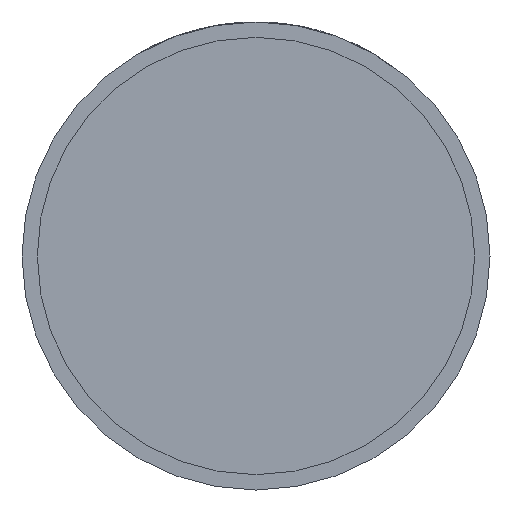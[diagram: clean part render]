
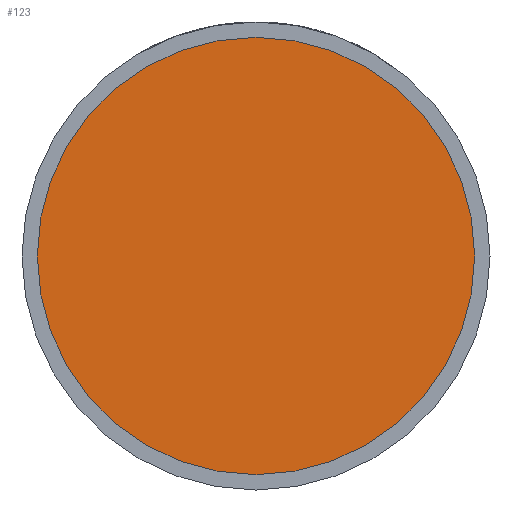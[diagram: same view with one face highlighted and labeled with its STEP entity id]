
A CAD part, front view. The second image highlights one B-rep face of the part: STEP entity #123.
In plain terms, the highlighted planar face has unit normal (0, -1, 0).
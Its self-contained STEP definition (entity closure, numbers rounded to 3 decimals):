
#119 = FACE_OUTER_BOUND ( 'NONE', #4085, .T. ) ;
#123 = ADVANCED_FACE ( 'NONE', ( #119 ), #1124, .T. ) ;
#641 = EDGE_CURVE ( 'NONE', #1106, #3462, #1079, .T. ) ;
#1000 = ORIENTED_EDGE ( 'NONE', *, *, #2819, .T. ) ;
#1079 = CIRCLE ( 'NONE', #3777, 28.5 ) ;
#1106 = VERTEX_POINT ( 'NONE', #2024 ) ;
#1119 = DIRECTION ( 'NONE',  ( 1., 0., 0. ) ) ;
#1124 = PLANE ( 'NONE',  #1915 ) ;
#1439 = CARTESIAN_POINT ( 'NONE',  ( 28.5, -17.5, 0. ) ) ;
#1481 = DIRECTION ( 'NONE',  ( 0., -1., 0. ) ) ;
#1558 = CARTESIAN_POINT ( 'NONE',  ( 0., -17.5, 0. ) ) ;
#1834 = CARTESIAN_POINT ( 'NONE',  ( -28.5, -17.5, 0. ) ) ;
#1915 = AXIS2_PLACEMENT_3D ( 'NONE', #1439, #3027, #3375 ) ;
#2024 = CARTESIAN_POINT ( 'NONE',  ( 28.5, -17.5, 0. ) ) ;
#2232 = DIRECTION ( 'NONE',  ( 0., -1., 0. ) ) ;
#2571 = ORIENTED_EDGE ( 'NONE', *, *, #641, .T. ) ;
#2819 = EDGE_CURVE ( 'NONE', #3462, #1106, #4144, .T. ) ;
#3027 = DIRECTION ( 'NONE',  ( 0., -1., 0. ) ) ;
#3375 = DIRECTION ( 'NONE',  ( 1., 0., 0. ) ) ;
#3462 = VERTEX_POINT ( 'NONE', #1834 ) ;
#3551 = DIRECTION ( 'NONE',  ( 1., 0., 0. ) ) ;
#3607 = AXIS2_PLACEMENT_3D ( 'NONE', #3803, #1481, #1119 ) ;
#3777 = AXIS2_PLACEMENT_3D ( 'NONE', #1558, #2232, #3551 ) ;
#3803 = CARTESIAN_POINT ( 'NONE',  ( 0., -17.5, 0. ) ) ;
#4085 = EDGE_LOOP ( 'NONE', ( #2571, #1000 ) ) ;
#4144 = CIRCLE ( 'NONE', #3607, 28.5 ) ;
